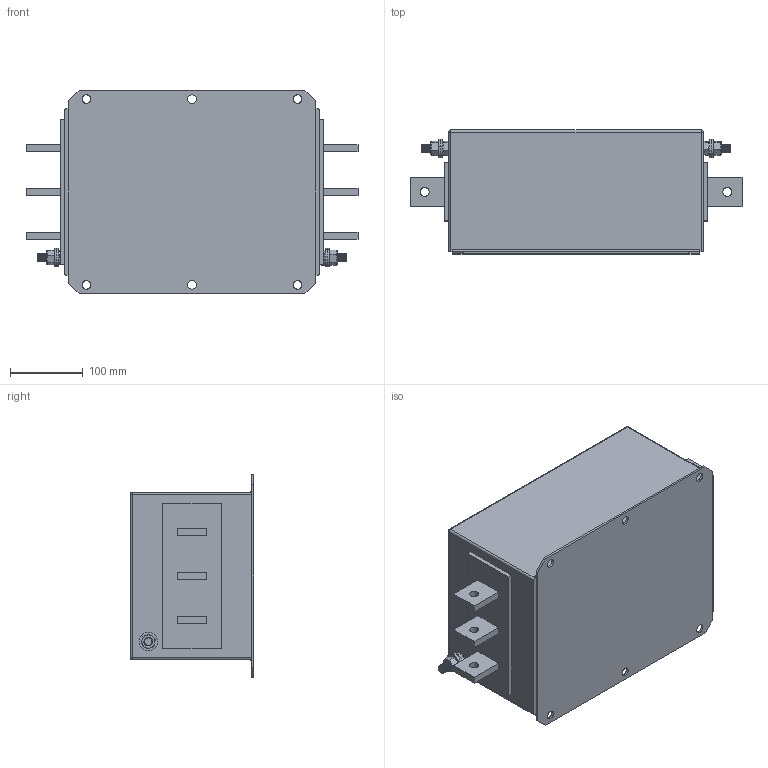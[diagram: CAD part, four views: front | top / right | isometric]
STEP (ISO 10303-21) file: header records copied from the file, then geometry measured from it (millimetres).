
FILE_DESCRIPTION (( 'STEP AP214' ), '1' );
FILE_NAME ('NF-800-EHC.STEP', '2026-09-16T10:02:55', ( '' ), ( '' ), 'SwSTEP 2.0', 'SolidWorks 2025', '' );
FILE_SCHEMA (( 'AUTOMOTIVE_DESIGN' ));
Length unit declared in the file: millimetre
Products named in the file (7): NF-800-EHC; UB-NF-800-EHC; NF-800-EHC_1; Formed Hex Screw_AM_B18.2.3.2M - Formed hex screw, M12 x 1.75 x 30 --30CS_2; Flat Washer Narrow_AM_B18.22M - Plain washer, 12 mm, narrow_1; Hex Nut Style 1_AM_B18.2.4.1M - Hex nut, Style 1,  M12 x 1.75 --D-N_2; M12x30 Earth post_2
Assembly tree (8 placements, depth 4):
  NF-800-EHC
    UB-NF-800-EHC
      M12x30 Earth post_2  x2
        Flat Washer Narrow_AM_B18.22M - Plain washer, 12 mm, narrow_1
        Hex Nut Style 1_AM_B18.2.4.1M - Hex nut, Style 1,  M12 x 1.75 --D-N_2
        Formed Hex Screw_AM_B18.2.3.2M - Formed hex screw, M12 x 1.75 x 30 --30CS_2
      NF-800-EHC_1
Bounding box: 456 x 170 x 280 mm (x, y, z)
Volume: 13999215.9 mm3; surface area: 449036.8 mm2
Topology: 9 solids, 9 shells, 450 faces, 1108 edges, 688 vertices
Faces by surface type: cone 196, cylinder 144, plane 106, sphere 4
Entity records: 9132 total; most frequent: CARTESIAN_POINT 2189, DIRECTION 1514, ORIENTED_EDGE 1356, EDGE_CURVE 678, AXIS2_PLACEMENT_3D 597, VERTEX_POINT 426, VECTOR 320, LINE 320
